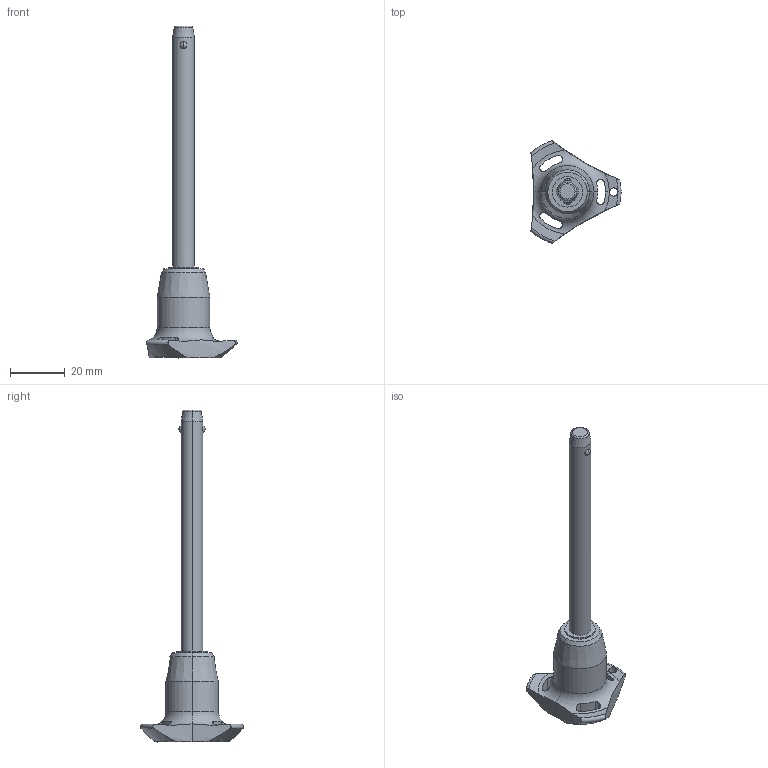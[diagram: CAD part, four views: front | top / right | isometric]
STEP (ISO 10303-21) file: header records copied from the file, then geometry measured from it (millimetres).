
FILE_DESCRIPTION (( 'STEP AP203' ), '1' );
FILE_NAME ('QR1714.M08-080-S.step', '2025-11-12T10:05:00', ( '' ), ( '' ), 'SwSTEP 2.0', 'SolidWorks 2019', '' );
FILE_SCHEMA (( 'CONFIG_CONTROL_DESIGN' ));
Length unit declared in the file: millimetre
Products named in the file (1): QR1714.M08-080-S
Bounding box: 33 x 37.51 x 121.5 mm (x, y, z)
Volume: 14671.5 mm3; surface area: 6065.2 mm2
Topology: 1 solids, 1 shells, 65 faces, 174 edges, 109 vertices
Faces by surface type: cylinder 30, cone 14, torus 11, sphere 6, plane 4
Entity records: 2746 total; most frequent: CARTESIAN_POINT 1073, ORIENTED_EDGE 348, DIRECTION 331, EDGE_CURVE 174, AXIS2_PLACEMENT_3D 147, VERTEX_POINT 109, CIRCLE 81, EDGE_LOOP 71
